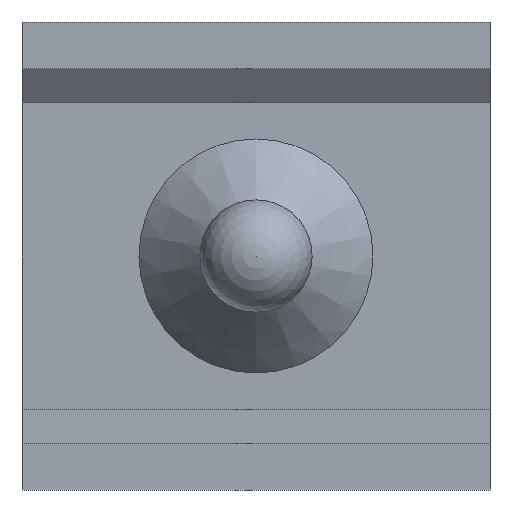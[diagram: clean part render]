
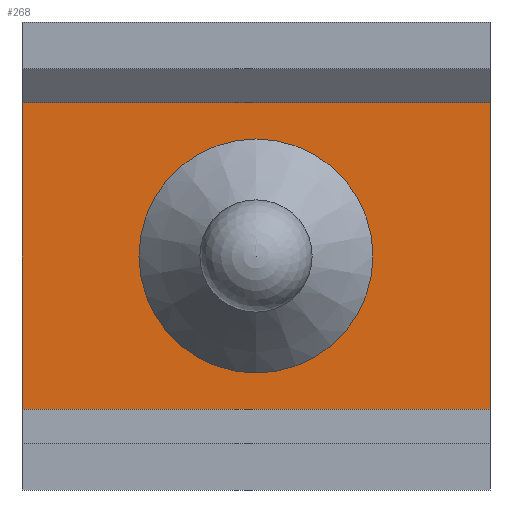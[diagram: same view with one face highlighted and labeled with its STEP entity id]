
A CAD part, front view. The second image highlights one B-rep face of the part: STEP entity #268.
In plain terms, the highlighted planar face has unit normal (0, -1, 0).
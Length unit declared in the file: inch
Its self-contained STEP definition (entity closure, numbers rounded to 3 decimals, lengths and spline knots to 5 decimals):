
#14=FACE_BOUND('',#52,.T.);
#18=PLANE('',#304);
#36=FACE_OUTER_BOUND('',#51,.T.);
#51=EDGE_LOOP('',(#211,#212,#213,#214));
#52=EDGE_LOOP('',(#215));
#66=LINE('',#416,#94);
#72=LINE('',#428,#100);
#73=LINE('',#430,#101);
#74=LINE('',#431,#102);
#94=VECTOR('',#345,0.3937);
#100=VECTOR('',#353,0.3937);
#101=VECTOR('',#356,0.3937);
#102=VECTOR('',#357,0.3937);
#120=CIRCLE('',#296,0.025);
#128=VERTEX_POINT('',#399);
#132=VERTEX_POINT('',#412);
#134=VERTEX_POINT('',#415);
#137=VERTEX_POINT('',#422);
#139=VERTEX_POINT('',#426);
#154=EDGE_CURVE('',#128,#128,#120,.T.);
#160=EDGE_CURVE('',#134,#132,#66,.T.);
#166=EDGE_CURVE('',#139,#137,#72,.T.);
#167=EDGE_CURVE('',#137,#132,#73,.T.);
#168=EDGE_CURVE('',#134,#139,#74,.T.);
#211=ORIENTED_EDGE('',*,*,#167,.F.);
#212=ORIENTED_EDGE('',*,*,#166,.F.);
#213=ORIENTED_EDGE('',*,*,#168,.F.);
#214=ORIENTED_EDGE('',*,*,#160,.T.);
#215=ORIENTED_EDGE('',*,*,#154,.T.);
#268=ADVANCED_FACE('',(#36,#14),#18,.F.);
#296=AXIS2_PLACEMENT_3D('',#401,#329,#330);
#304=AXIS2_PLACEMENT_3D('',#429,#354,#355);
#329=DIRECTION('center_axis',(0.,1.,0.));
#330=DIRECTION('ref_axis',(0.,0.,1.));
#345=DIRECTION('',(1.,0.,0.));
#353=DIRECTION('',(1.,0.,0.));
#354=DIRECTION('center_axis',(0.,1.,0.));
#355=DIRECTION('ref_axis',(0.,0.,1.));
#356=DIRECTION('',(0.,0.,-1.));
#357=DIRECTION('',(0.,0.,1.));
#399=CARTESIAN_POINT('',(0.05,0.02,0.025));
#401=CARTESIAN_POINT('Origin',(0.05,0.02,0.05));
#412=CARTESIAN_POINT('',(0.1,0.02,0.01728));
#415=CARTESIAN_POINT('',(0.,0.02,0.01728));
#416=CARTESIAN_POINT('',(0.,0.02,0.01728));
#422=CARTESIAN_POINT('',(0.1,0.02,0.08272));
#426=CARTESIAN_POINT('',(0.,0.02,0.08272));
#428=CARTESIAN_POINT('',(0.,0.02,0.08272));
#429=CARTESIAN_POINT('Origin',(0.,0.02,0.01728));
#430=CARTESIAN_POINT('',(0.1,0.02,0.05864));
#431=CARTESIAN_POINT('',(0.,0.02,0.00864));
